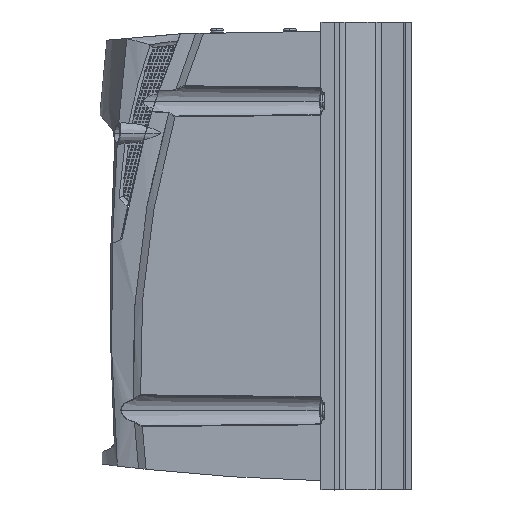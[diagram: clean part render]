
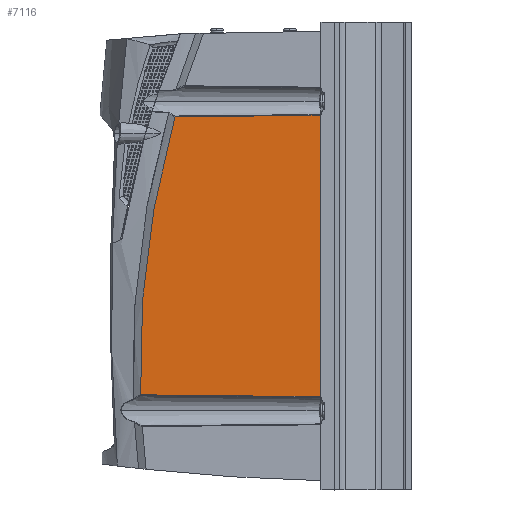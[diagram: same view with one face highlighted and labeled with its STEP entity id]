
A CAD part, left-side view. The second image highlights one B-rep face of the part: STEP entity #7116.
In plain terms, the highlighted planar face has unit normal (-1, 0.018, 0).
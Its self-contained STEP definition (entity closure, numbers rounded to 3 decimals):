
#5166 = CARTESIAN_POINT ( 'NONE',  ( -83.14, 49.251, -76.817 ) ) ;
#7116 = ADVANCED_FACE ( 'NONE', ( #62881 ), #76790, .T. ) ;
#7531 = EDGE_CURVE ( 'NONE', #43735, #62481, #74949, .T. ) ;
#8782 = EDGE_CURVE ( 'NONE', #66265, #44050, #49884, .T. ) ;
#13352 = ORIENTED_EDGE ( 'NONE', *, *, #36290, .T. ) ;
#14651 = B_SPLINE_CURVE_WITH_KNOTS ( 'NONE', 3,
 ( #50738, #58526, #63756, #71135, #18158, #64610, #64176, #5166, #44216, #19428, #71567, #57245, #37293 ),
 .UNSPECIFIED., .F., .F.,
 ( 4, 3, 3, 3, 4 ),
 ( 0., 0.031, 0.05, 0.065, 0.099 ),
 .UNSPECIFIED. ) ;
#15194 = CARTESIAN_POINT ( 'NONE',  ( -83.44, 32.036, 76.994 ) ) ;
#16610 = B_SPLINE_CURVE_WITH_KNOTS ( 'NONE', 3,
 ( #25127, #77692, #37761, #25551, #19469, #51625, #72025, #58997, #84202, #25990 ),
 .UNSPECIFIED., .F., .F.,
 ( 4, 2, 2, 2, 4 ),
 ( 0., 0.035, 0.079, 0.122, 0.155 ),
 .UNSPECIFIED. ) ;
#18158 = CARTESIAN_POINT ( 'NONE',  ( -82.834, 66.781, -76.635 ) ) ;
#19428 = CARTESIAN_POINT ( 'NONE',  ( -83.323, 38.73, -76.928 ) ) ;
#19469 = CARTESIAN_POINT ( 'NONE',  ( -82.273, 98.91, 14.19 ) ) ;
#21482 = AXIS2_PLACEMENT_3D ( 'NONE', #29493, #83289, #48994 ) ;
#24976 = CARTESIAN_POINT ( 'NONE',  ( -82.183, 104.038, -76.262 ) ) ;
#25127 = CARTESIAN_POINT ( 'NONE',  ( -82.513, 85.127, 76.449 ) ) ;
#25551 = CARTESIAN_POINT ( 'NONE',  ( -82.314, 96.547, 28.398 ) ) ;
#25701 = B_SPLINE_CURVE_WITH_KNOTS ( 'NONE', 3,
 ( #47751, #15194, #54268, #74696 ),
 .UNSPECIFIED., .F., .F.,
 ( 4, 4 ),
 ( 0., 0.08 ),
 .UNSPECIFIED. ) ;
#25990 = CARTESIAN_POINT ( 'NONE',  ( -82.183, 104.042, -76.222 ) ) ;
#28379 = CARTESIAN_POINT ( 'NONE',  ( -82.183, 104.042, -76.222 ) ) ;
#29493 = CARTESIAN_POINT ( 'NONE',  ( -84.001, -0.087, -128.5 ) ) ;
#33654 = ORIENTED_EDGE ( 'NONE', *, *, #8782, .T. ) ;
#35337 = VECTOR ( 'NONE', #63341, 1000. ) ;
#35438 = ORIENTED_EDGE ( 'NONE', *, *, #49086, .T. ) ;
#36290 = EDGE_CURVE ( 'NONE', #62481, #66265, #14651, .T. ) ;
#37293 = CARTESIAN_POINT ( 'NONE',  ( -83.903, 5.491, -77.289 ) ) ;
#37761 = CARTESIAN_POINT ( 'NONE',  ( -82.408, 91.157, 53.895 ) ) ;
#38116 = EDGE_CURVE ( 'NONE', #44050, #76890, #25701, .T. ) ;
#40423 = CARTESIAN_POINT ( 'NONE',  ( -82.183, 104.042, -76.222 ) ) ;
#43735 = VERTEX_POINT ( 'NONE', #40423 ) ;
#44050 = VERTEX_POINT ( 'NONE', #48095 ) ;
#44216 = CARTESIAN_POINT ( 'NONE',  ( -83.231, 43.99, -76.872 ) ) ;
#47120 = EDGE_LOOP ( 'NONE', ( #13352, #33654, #81565, #35438, #57090 ) ) ;
#47751 = CARTESIAN_POINT ( 'NONE',  ( -83.903, 5.491, 77.289 ) ) ;
#48095 = CARTESIAN_POINT ( 'NONE',  ( -83.903, 5.491, 77.289 ) ) ;
#48994 = DIRECTION ( 'NONE',  ( 0.017, 1., 0. ) ) ;
#49086 = EDGE_CURVE ( 'NONE', #76890, #43735, #16610, .T. ) ;
#49884 = LINE ( 'NONE', #78086, #35337 ) ;
#50738 = CARTESIAN_POINT ( 'NONE',  ( -82.183, 104.038, -76.262 ) ) ;
#51625 = CARTESIAN_POINT ( 'NONE',  ( -82.212, 102.394, -14.376 ) ) ;
#54268 = CARTESIAN_POINT ( 'NONE',  ( -82.977, 58.582, 76.715 ) ) ;
#54856 = CARTESIAN_POINT ( 'NONE',  ( -82.183, 104.04, -76.249 ) ) ;
#57090 = ORIENTED_EDGE ( 'NONE', *, *, #7531, .T. ) ;
#57245 = CARTESIAN_POINT ( 'NONE',  ( -83.71, 16.571, -77.166 ) ) ;
#58526 = CARTESIAN_POINT ( 'NONE',  ( -82.364, 93.664, -76.363 ) ) ;
#58997 = CARTESIAN_POINT ( 'NONE',  ( -82.177, 104.388, -54.147 ) ) ;
#62481 = VERTEX_POINT ( 'NONE', #24976 ) ;
#62881 = FACE_OUTER_BOUND ( 'NONE', #47120, .T. ) ;
#63341 = DIRECTION ( 'NONE',  ( 0., 0., 1. ) ) ;
#63756 = CARTESIAN_POINT ( 'NONE',  ( -82.545, 83.29, -76.467 ) ) ;
#64176 = CARTESIAN_POINT ( 'NONE',  ( -83.048, 54.512, -76.762 ) ) ;
#64610 = CARTESIAN_POINT ( 'NONE',  ( -82.941, 60.647, -76.698 ) ) ;
#66265 = VERTEX_POINT ( 'NONE', #76632 ) ;
#71135 = CARTESIAN_POINT ( 'NONE',  ( -82.726, 72.915, -76.573 ) ) ;
#71567 = CARTESIAN_POINT ( 'NONE',  ( -83.517, 27.65, -77.046 ) ) ;
#72025 = CARTESIAN_POINT ( 'NONE',  ( -82.192, 103.514, -28.736 ) ) ;
#73386 = CARTESIAN_POINT ( 'NONE',  ( -82.513, 85.127, 76.449 ) ) ;
#74696 = CARTESIAN_POINT ( 'NONE',  ( -82.513, 85.127, 76.449 ) ) ;
#74949 = B_SPLINE_CURVE_WITH_KNOTS ( 'NONE', 3,
 ( #28379, #80477, #54856, #81347 ),
 .UNSPECIFIED., .F., .F.,
 ( 4, 4 ),
 ( 0., 0. ),
 .UNSPECIFIED. ) ;
#76632 = CARTESIAN_POINT ( 'NONE',  ( -83.903, 5.491, -77.289 ) ) ;
#76790 = PLANE ( 'NONE',  #21482 ) ;
#76890 = VERTEX_POINT ( 'NONE', #73386 ) ;
#77692 = CARTESIAN_POINT ( 'NONE',  ( -82.457, 88.34, 65.229 ) ) ;
#78086 = CARTESIAN_POINT ( 'NONE',  ( -83.903, 5.491, -128.5 ) ) ;
#80477 = CARTESIAN_POINT ( 'NONE',  ( -82.183, 104.041, -76.235 ) ) ;
#81347 = CARTESIAN_POINT ( 'NONE',  ( -82.183, 104.038, -76.262 ) ) ;
#81565 = ORIENTED_EDGE ( 'NONE', *, *, #38116, .T. ) ;
#83289 = DIRECTION ( 'NONE',  ( -1., 0.017, 0. ) ) ;
#84202 = CARTESIAN_POINT ( 'NONE',  ( -82.177, 104.399, -65.19 ) ) ;
